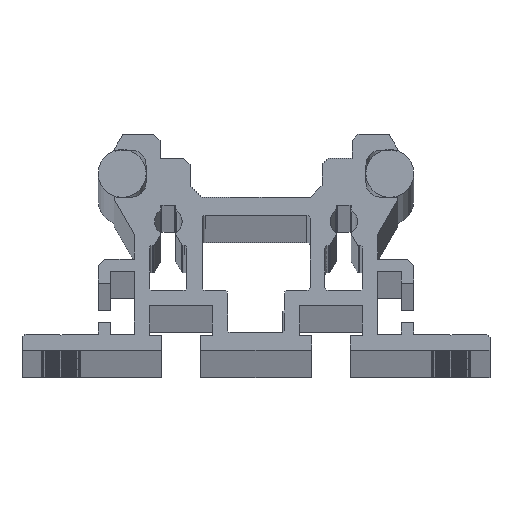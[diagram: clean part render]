
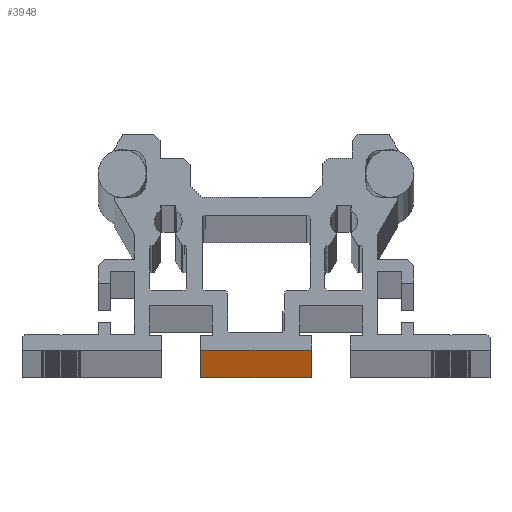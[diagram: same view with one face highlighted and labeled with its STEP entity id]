
A CAD part, top view. The second image highlights one B-rep face of the part: STEP entity #3948.
In plain terms, the highlighted planar face has unit normal (0, -1, 0).
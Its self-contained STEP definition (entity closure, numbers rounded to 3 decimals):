
#3948 = ADVANCED_FACE ( 'NONE', ( #18731 ), #18730, .T. ) ;
#3949 = EDGE_LOOP ( 'NONE', ( #3950, #3953, #3956, #3958 ) ) ;
#3950 = ORIENTED_EDGE ( 'NONE', *, *, #3951, .F. ) ;
#3951 = EDGE_CURVE ( 'NONE', #3952, #3970, #18725, .T. ) ;
#3952 = VERTEX_POINT ( 'NONE', #18721 ) ;
#3953 = ORIENTED_EDGE ( 'NONE', *, *, #3954, .F. ) ;
#3954 = EDGE_CURVE ( 'NONE', #3955, #3952, #18720, .T. ) ;
#3955 = VERTEX_POINT ( 'NONE', #18716 ) ;
#3956 = ORIENTED_EDGE ( 'NONE', *, *, #3957, .T. ) ;
#3957 = EDGE_CURVE ( 'NONE', #3955, #3973, #18715, .T. ) ;
#3958 = ORIENTED_EDGE ( 'NONE', *, *, #3972, .T. ) ;
#3970 = VERTEX_POINT ( 'NONE', #18752 ) ;
#3972 = EDGE_CURVE ( 'NONE', #3973, #3970, #18751, .T. ) ;
#3973 = VERTEX_POINT ( 'NONE', #18747 ) ;
#18712 = DIRECTION ( 'NONE',  ( 1., 0., 0. ) ) ;
#18713 = VECTOR ( 'NONE', #18712, 1000. ) ;
#18714 = CARTESIAN_POINT ( 'NONE',  ( -9.25, 0., -1298. ) ) ;
#18715 = LINE ( 'NONE', #18714, #18713 ) ;
#18716 = CARTESIAN_POINT ( 'NONE',  ( -9.25, 0., -1298. ) ) ;
#18717 = DIRECTION ( 'NONE',  ( 0., 0., 1. ) ) ;
#18718 = VECTOR ( 'NONE', #18717, 1000. ) ;
#18719 = CARTESIAN_POINT ( 'NONE',  ( -9.25, 0., -1298. ) ) ;
#18720 = LINE ( 'NONE', #18719, #18718 ) ;
#18721 = CARTESIAN_POINT ( 'NONE',  ( -9.25, 0., 1298. ) ) ;
#18722 = DIRECTION ( 'NONE',  ( 1., 0., 0. ) ) ;
#18723 = VECTOR ( 'NONE', #18722, 1000. ) ;
#18724 = CARTESIAN_POINT ( 'NONE',  ( -9.25, 0., 1298. ) ) ;
#18725 = LINE ( 'NONE', #18724, #18723 ) ;
#18726 = DIRECTION ( 'NONE',  ( 0., 0., -1. ) ) ;
#18727 = DIRECTION ( 'NONE',  ( 0., -1., 0. ) ) ;
#18728 = CARTESIAN_POINT ( 'NONE',  ( -9.25, 0., -1298. ) ) ;
#18729 = AXIS2_PLACEMENT_3D ( 'NONE', #18728, #18727, #18726 ) ;
#18730 = PLANE ( 'NONE',  #18729 ) ;
#18731 = FACE_OUTER_BOUND ( 'NONE', #3949, .T. ) ;
#18747 = CARTESIAN_POINT ( 'NONE',  ( 9.25, 0., -1298. ) ) ;
#18748 = DIRECTION ( 'NONE',  ( 0., 0., 1. ) ) ;
#18749 = VECTOR ( 'NONE', #18748, 1000. ) ;
#18750 = CARTESIAN_POINT ( 'NONE',  ( 9.25, 0., -1298. ) ) ;
#18751 = LINE ( 'NONE', #18750, #18749 ) ;
#18752 = CARTESIAN_POINT ( 'NONE',  ( 9.25, 0., 1298. ) ) ;
